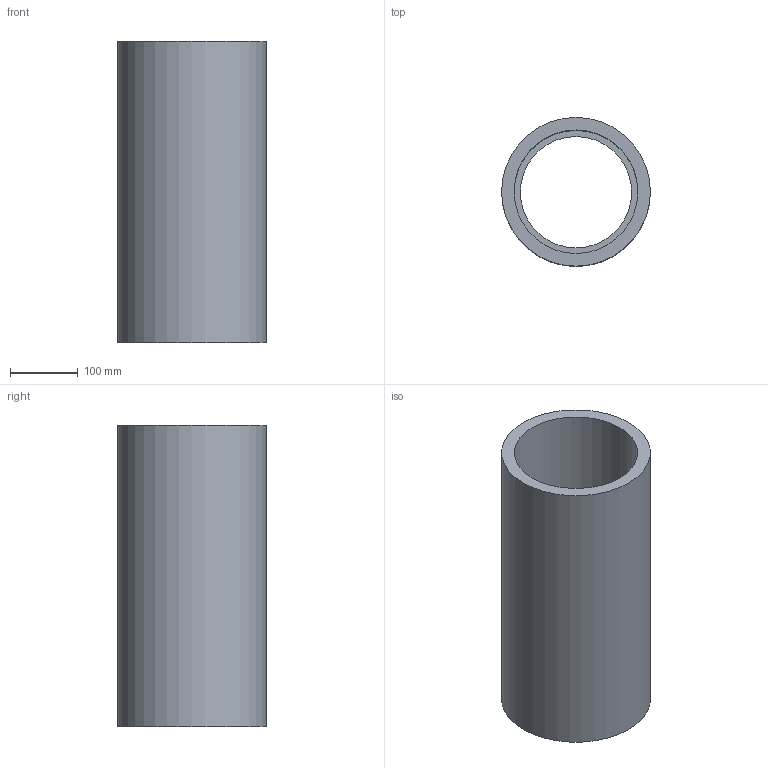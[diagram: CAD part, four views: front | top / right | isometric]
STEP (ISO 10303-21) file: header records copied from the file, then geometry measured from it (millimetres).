
FILE_DESCRIPTION( ( 'Unknown' ), '1' );
FILE_NAME( 'C:/Users/Lee/Documents/HGC Work/Solid Edge/heavy_gas_cherenkov_v5/step/quartz_window_sleeve.stp', 'Unknown', ( 'Unknown' ), ( 'Unknown' ), 'PSStep 13.0', 'Unknown', ' ' );
FILE_SCHEMA( ( 'AUTOMOTIVE_DESIGN { 1 0 10303 214 1 1 1 1 }' ) );
Length unit declared in the file: millimetre
Products named in the file (1): 1
Bounding box: 219.07 x 219.07 x 444.5 mm (x, y, z)
Volume: 5246028.1 mm3; surface area: 596411.2 mm2
Topology: 1 solids, 1 shells, 23 faces, 38 edges, 26 vertices
Faces by surface type: plane 11, cylinder 11, torus 1
Full cylindrical faces by diameter (mm): 6.647 x8, 164 x1, 182 x1, 219.075 x1
Entity records: 668 total; most frequent: DIRECTION 94, CARTESIAN_POINT 70, AXIS2_PLACEMENT_3D 47, EDGE_LOOP 46, ORIENTED_EDGE 46, FACE_OUTER_BOUND 35, STYLED_ITEM 23, PRESENTATION_STYLE_ASSIGNMENT 23
